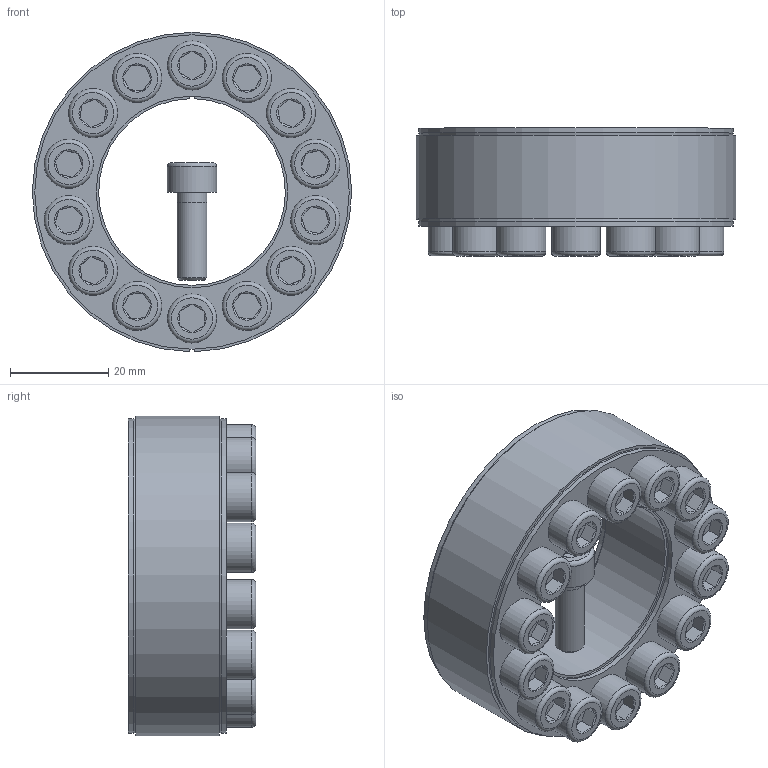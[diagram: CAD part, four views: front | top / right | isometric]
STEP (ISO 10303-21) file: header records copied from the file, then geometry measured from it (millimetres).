
FILE_DESCRIPTION( ( 'Unknown' ), '1' );
FILE_NAME( 'C:/Dokumente und Einstellungen/Sven/Desktop/homepage/cad - homepage/KBS40/KBS 40 - 38 x 65.stp', 'Unknown', ( 'Unknown' ), ( 'Unknown' ), 'XStep 1.0', 'Unknown', ' ' );
FILE_SCHEMA( ( 'automotive_design' ) );
Length unit declared in the file: millimetre
Products named in the file (16): Assem1; KBS 40 38x65; ISO 4762 M6x18; ISO 4762 M6x18-oa0; ISO 4762 M6x18-oa1; ISO 4762 M6x18-oa2; ISO 4762 M6x18-oa3; ISO 4762 M6x18-oa4; ISO 4762 M6x18-oa5; ISO 4762 M6x18-oa6; ISO 4762 M6x18-oa7; ISO 4762 M6x18-oa8; ISO 4762 M6x18-oa9; ISO 4762 M6x18-oa10; ISO 4762 M6x18-oa11; ISO 4762 M6x18-oa12
Bounding box: 65 x 26 x 65 mm (x, y, z)
Volume: 95866.8 mm3; surface area: 51521.8 mm2
Topology: 30 solids, 30 shells, 788 faces, 1456 edges, 840 vertices
Faces by surface type: plane 376, cone 204, cylinder 152, torus 56
Full cylindrical faces by diameter (mm): 5 x28, 6 x84, 10 x28, 39 x4, 64 x4
Entity records: 9689 total; most frequent: CARTESIAN_POINT 2022, DIRECTION 1600, ORIENTED_EDGE 1156, AXIS2_PLACEMENT_3D 696, EDGE_LOOP 600, EDGE_CURVE 578, FACE_OUTER_BOUND 496, ADVANCED_FACE 394
